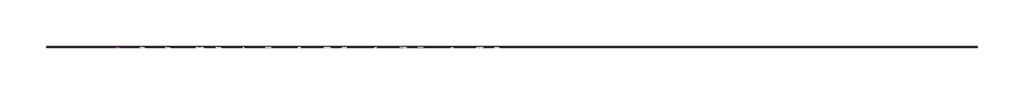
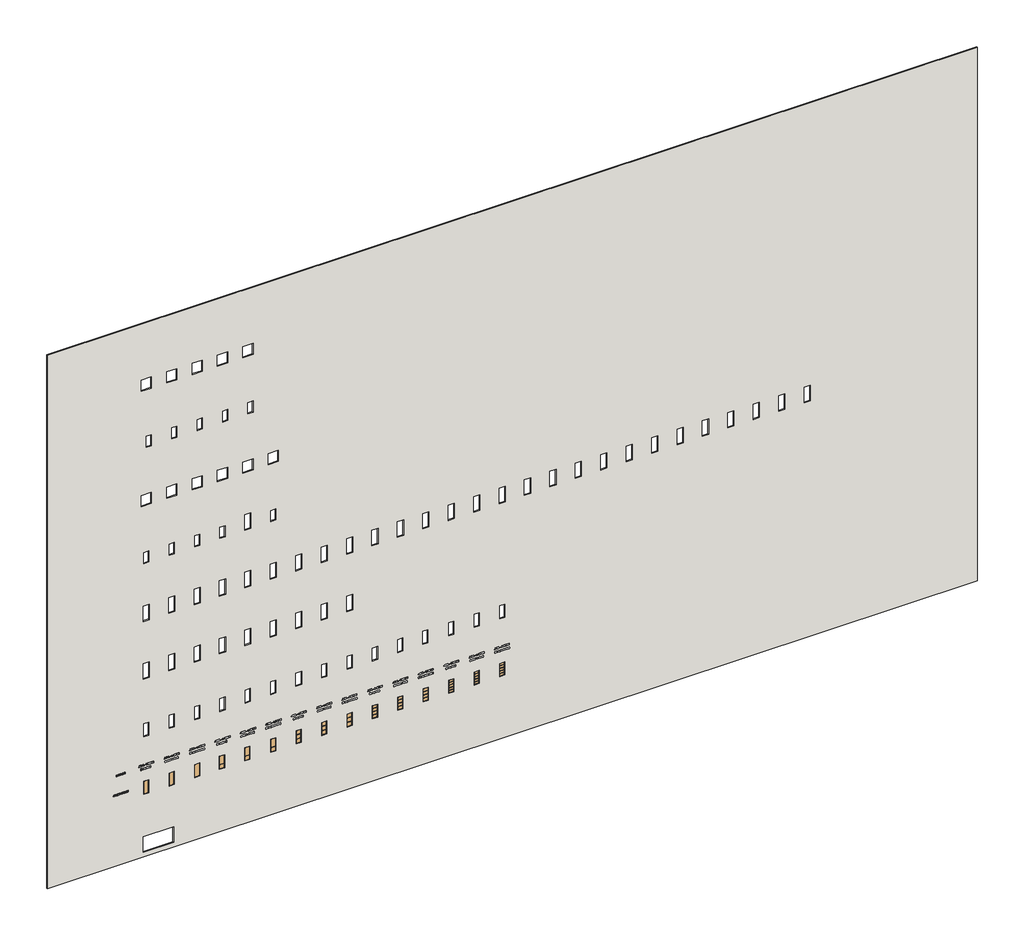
# One storey, part 1 of 11: 15 doors, 2 proxies, 1 wall.
"""IFC4 building model written with IfcOpenShell, lengths in millimetres."""

from ifc_helpers import new_model, si_unit, frame, origin, place, context, project, spatial, polyline, outline, extrude, transform, mapped, element, save
from components import door_0893ecdf, door_d1d23a0f, door_01771f59, door_7a753f8f, door_339503d6, door_c5224017, ac3l_a931b1db, ac3l_4260f32d, ac3l_e11f1b5f, ac4l_01f99b59, ac4l_2f4fa108, ac4l_27b2dc08, ac5l_27aba7ac, ac5l_d44fc449, ac5l_c1f94602

model = new_model("IFC4")

# Units and contexts
model_context = context("Model", 3, world=origin())
ifc_project = project(units=[si_unit("LENGTHUNIT", "METRE", prefix="MILLI")], contexts=[model_context])

# Site, building, storey
site = spatial("IfcSite", under=ifc_project)
building = spatial("IfcBuilding", under=site)
storey = spatial("IfcBuildingStorey", under=building, Name="01 - Marelli - Planta Baixa - Painéis Lambri", Elevation=0.0)

# Proxies
placement = place(None, origin())
element("IfcBuildingElementProxy", 1, Name="300mm Arial", ObjectType="300mm Arial", at=placement, inside=storey, context=model_context, shape_type="SweptSolid", body=[
    extrude(outline(polyline([(1600.0, -7636.3146377), (1600.0, -7596.5098058), (1694.1777908, -7562.076051), (1694.1777908, -7437.9526659), (1600.0, -7403.4453347), (1600.0, -7363.6405028), (1901.3689304, -7483.9379153), (1901.3689304, -7516.0172252), (1600.0, -7636.3146377)]), holes=[polyline([(1731.8489071, -7548.243688), (1812.415064, -7518.739552), (1863.6978141, -7499.9775703), (1805.9403409, -7478.8611437), (1731.8489071, -7451.7114525), (1731.8489071, -7548.243688)])]), frame((0.0, 8778.3159498, 0.0), z_axis=(0.0, 1.0, 0.0), x_axis=(0.0, 0.0, 1.0)), (0.0, 0.0, 1.0), 10.0),
    extrude(outline(polyline([(1600.0, -7323.3942126), (1600.0, -7285.7230963), (1731.8489071, -7285.7230963), (1731.8489071, -7240.2528817), (1730.5245319, -7218.4006911), (1723.350833, -7200.484838), (1703.816299, -7180.582422), (1662.4663628, -7152.2555084), (1600.0, -7113.0392877), (1600.0, -7069.2613303), (1681.6698029, -7119.5140108), (1720.4445652, -7150.0482164), (1736.5577966, -7171.4589486), (1746.5457928, -7134.3488523), (1754.5610217, -7119.9669655), (1764.5904046, -7108.3671864), (1789.2017101, -7093.0540983), (1818.8897871, -7087.9497357), (1842.7561316, -7091.0307474), (1864.4703663, -7100.2737825), (1881.9815493, -7114.6763626), (1893.2387384, -7133.2360093), (1899.3363824, -7158.629064), (1901.3689304, -7193.5318683), (1901.3689304, -7323.3942126), (1600.0, -7323.3942126)]), holes=[polyline([(1769.5200234, -7285.7230963), (1863.6978141, -7285.7230963), (1863.6978141, -7191.9131875), (1860.4420585, -7162.1055488), (1850.6747915, -7141.5501423), (1835.8675412, -7129.6031746), (1817.4918355, -7125.620852), (1804.1837044, -7127.7085823), (1791.9240369, -7133.9717732), (1781.7888879, -7144.254075), (1774.8543123, -7158.3991377), (1770.8535956, -7177.1887106), (1769.5200234, -7201.404543), (1769.5200234, -7285.7230963)])]), frame((0.0, 8778.3159498, 0.0), z_axis=(0.0, 1.0, 0.0), x_axis=(0.0, 0.0, 1.0)), (0.0, 0.0, 1.0), 10.0),
    extrude(outline(polyline([(1636.1260119, -6795.6307023), (1659.6520655, -6777.1814202), (1686.9673037, -6764.0664271), (1718.0349382, -6756.2305406), (1752.8181808, -6753.6185784), (1794.6463636, -6757.9227978), (1831.9863862, -6770.8354558), (1863.1827793, -6791.9610794), (1886.5800742, -6820.9041954), (1901.2033836, -6855.7702114), (1906.07782, -6894.6645354), (1901.3137481, -6933.2553567), (1887.0215326, -6967.9466288), (1863.6150407, -6996.93573), (1831.5081396, -7018.4200386), (1793.055274, -7031.7189727), (1750.6108888, -7036.1519507), (1708.2032918, -7031.7097756), (1670.3022493, -7018.3832504), (1638.6460036, -6996.8161684), (1614.9727972, -6967.6523232), (1600.2115321, -6932.8322924), (1595.2911105, -6894.2966534), (1599.5585416, -6855.9449554), (1612.360835, -6821.0881364), (1591.52032, -6790.1308665), (1577.1177399, -6759.063232), (1604.7088895, -6748.9096889), (1617.5295771, -6771.2953083), (1636.1260119, -6795.6307023)]), holes=[polyline([(1686.2315397, -6883.9223811), (1657.3895912, -6893.6344658), (1650.712533, -6873.2721974), (1640.6877487, -6853.9767867), (1634.8936072, -6873.6032912), (1632.9622268, -6894.5173826), (1634.8637168, -6916.2385151), (1640.568187, -6935.9316982), (1650.0756373, -6953.5969318), (1663.3860678, -6969.2342158), (1680.251158, -6982.0296115), (1700.4225876, -6991.1691798), (1723.9003567, -6996.6529208), (1750.6844652, -6998.4808344), (1778.1859436, -6996.6322274), (1802.0499888, -6991.0864063), (1822.2766007, -6981.8433712), (1838.8657795, -6968.903122), (1851.7899338, -6953.1577726), (1861.0214726, -6935.4994369), (1866.5603959, -6915.9281147), (1868.4067037, -6894.4438062), (1864.7554749, -6865.9605427), (1853.8017885, -6840.4019411), (1836.2354232, -6819.2027411), (1812.7461578, -6803.7976826), (1784.0605592, -6794.4166917), (1750.9051944, -6791.2896947), (1721.7321522, -6793.5015852), (1696.4586591, -6800.1372567), (1675.0847152, -6811.1967092), (1657.6103204, -6826.6799427), (1674.2569807, -6852.2477413), (1686.2315397, -6883.9223811)])]), frame((0.0, 8778.3159498, 0.0), z_axis=(0.0, 1.0, 0.0), x_axis=(0.0, 0.0, 1.0)), (0.0, 0.0, 1.0), 10.0),
    extrude(outline(polyline([(1901.3689304, -6499.3385434), (1728.8322747, -6499.3385434), (1681.6698029, -6504.1026152), (1664.9311721, -6510.057705), (1652.7542781, -6518.3948307), (1644.0952556, -6529.5278596), (1637.9102396, -6543.8706589), (1632.9622268, -6582.1855687), (1635.4638243, -6606.3554158), (1642.968617, -6626.4785609), (1655.0811317, -6641.9112106), (1671.4058953, -6652.0095714), (1694.9779341, -6657.5829836), (1728.8322747, -6659.4407877), (1901.3689304, -6659.4407877), (1901.3689304, -6697.111904), (1727.5078995, -6697.111904), (1684.7324205, -6694.2516215), (1652.0553023, -6685.6707739), (1627.6923172, -6670.4036711), (1609.8592375, -6647.4846228), (1598.9331422, -6616.904432), (1595.2911105, -6578.6539015), (1599.4757682, -6539.5480454), (1612.0297412, -6508.7563224), (1631.2515755, -6486.2235502), (1655.4398167, -6471.8945465), (1686.7925597, -6464.2242069), (1727.5078995, -6461.6674271), (1901.3689304, -6461.6674271), (1901.3689304, -6499.3385434)])), frame((0.0, 8778.3159498, 0.0), z_axis=(0.0, 1.0, 0.0), x_axis=(0.0, 0.0, 1.0)), (0.0, 0.0, 1.0), 10.0),
    extrude(outline(polyline([(-6353.3629677, 8778.3159498), (-6391.034084, 8778.3159498), (-6391.034084, 8788.3159498), (-6353.3629677, 8788.3159498), (-6353.3629677, 8778.3159498)])), frame((0.0, 0.0, 1600.0), z_axis=(0.0, 0.0, 1.0), x_axis=(1.0, 0.0, 0.0)), (0.0, 0.0, 1.0), 301.3689304),
    extrude(outline(polyline([(1600.0, -6188.9932922), (1600.0, -6150.0713771), (1901.3689304, -6035.2186183), (1901.3689304, -6075.5384849), (1684.2449769, -6156.0310655), (1635.3166715, -6172.0707205), (1684.2449769, -6188.3311046), (1901.3689304, -6268.602956), (1901.3689304, -6308.9228227), (1600.0, -6188.9932922)])), frame((0.0, 8778.3159498, 0.0), z_axis=(0.0, 1.0, 0.0), x_axis=(0.0, 0.0, 1.0)), (0.0, 0.0, 1.0), 10.0),
    extrude(outline(polyline([(1746.7113397, -6014.3229209), (1708.1665036, -6010.0187016), (1671.7002009, -5997.1060436), (1640.007167, -5975.8424642), (1615.7821376, -5946.485481), (1600.4138672, -5910.8377157), (1595.2911105, -5870.70179), (1599.9264236, -5832.892718), (1613.832363, -5797.7507904), (1636.7514113, -5767.7868019), (1668.4260511, -5745.5115471), (1706.8881137, -5731.6883811), (1750.1694304, -5727.0806591), (1792.8805301, -5731.4584548), (1830.8091638, -5744.5918421), (1862.4286213, -5766.0761506), (1886.2121922, -5795.5067102), (1901.1114131, -5830.9521404), (1906.07782, -5870.4810608), (1903.4336681, -5900.7715446), (1895.5012126, -5928.1465636), (1882.2804534, -5952.6061177), (1863.7713905, -5974.1502071), (1840.5902263, -5991.7257694), (1813.3531631, -6004.2797425), (1782.0602009, -6011.8121263), (1746.7113397, -6014.3229209)]), holes=[polyline([(1746.3434577, -5976.6518046), (1776.8799625, -5974.6882345), (1802.7121764, -5968.797524), (1823.8400992, -5958.9796733), (1840.263731, -5945.2346822), (1852.5762816, -5928.7673644), (1861.3709605, -5910.7825334), (1866.6477679, -5891.2801891), (1868.4067037, -5870.2603316), (1864.7554749, -5841.0964864), (1853.8017885, -5814.9676677), (1836.2078321, -5793.3086153), (1812.6357932, -5777.5540688), (1783.8122389, -5767.9523488), (1750.463736, -5764.7517754), (1723.9256486, -5766.6210758), (1700.5973316, -5772.228977), (1680.478785, -5781.5754789), (1663.5700088, -5794.6605816), (1650.1791041, -5810.642755), (1640.6141723, -5828.6804691), (1634.8752131, -5848.7737238), (1632.9622268, -5870.9225192), (1634.856819, -5892.6988341), (1640.5405959, -5912.557564), (1650.0135572, -5930.4987091), (1663.2757032, -5946.5222692), (1679.8349915, -5959.703941), (1699.19938, -5969.1194208), (1721.3688687, -5974.7687087), (1746.3434577, -5976.6518046)])]), frame((0.0, 8778.3159498, 0.0), z_axis=(0.0, 1.0, 0.0), x_axis=(0.0, 0.0, 1.0)), (0.0, 0.0, 1.0), 10.0),
    extrude(outline(polyline([(1600.0, -5557.5606357), (1600.0, -5443.4436408), (1605.1871361, -5395.1407348), (1611.6066769, -5377.10532), (1620.4910271, -5362.3624491), (1632.7598917, -5350.3235108), (1649.3329756, -5340.399894), (1668.8215242, -5333.7504269), (1689.8367832, -5331.5339379), (1715.055094, -5334.7804965), (1736.7049494, -5344.5201723), (1753.6643094, -5360.2931129), (1764.8111338, -5381.6394656), (1776.5557665, -5363.7695977), (1791.4825785, -5351.0684718), (1808.543106, -5343.4809057), (1826.6888854, -5340.951717), (1846.4073604, -5343.9591523), (1865.2429185, -5352.9814582), (1881.2549824, -5367.3104619), (1892.5029744, -5386.2379906), (1899.1524414, -5410.9320695), (1901.3689304, -5442.560724), (1901.3689304, -5557.5606357), (1600.0, -5557.5606357)]), holes=[polyline([(1778.9378025, -5519.8895194), (1863.6978141, -5519.8895194), (1863.6978141, -5456.3195106), (1859.7614768, -5407.9062401), (1854.1604734, -5395.4166463), (1845.230138, -5386.2012024), (1833.7890079, -5380.5174255), (1820.6556207, -5378.6228333), (1807.1267603, -5380.6553813), (1796.1178916, -5386.7530254), (1787.7577733, -5396.8605832), (1782.175164, -5410.9228724), (1778.9378025, -5451.0955863), (1778.9378025, -5519.8895194)]), polyline([(1637.6711163, -5519.8895194), (1741.2666861, -5519.8895194), (1741.2666861, -5446.3131204), (1740.0066903, -5419.4853259), (1736.2267028, -5399.776048), (1729.3381125, -5385.8609115), (1718.752308, -5376.4155413), (1705.2142506, -5371.007676), (1689.4689012, -5369.2050542), (1675.9124497, -5370.7409615), (1664.0850436, -5375.3486835), (1647.3464128, -5391.0204565), (1639.1426443, -5414.6752688), (1637.6711163, -5442.6343004), (1637.6711163, -5519.8895194)])]), frame((0.0, 8778.3159498, 0.0), z_axis=(0.0, 1.0, 0.0), x_axis=(0.0, 0.0, 1.0)), (0.0, 0.0, 1.0), 10.0),
    extrude(outline(polyline([(-5237.3561471, 8778.3159498), (-5275.0272634, 8778.3159498), (-5275.0272634, 8788.3159498), (-5237.3561471, 8788.3159498), (-5237.3561471, 8778.3159498)])), frame((0.0, 0.0, 1600.0), z_axis=(0.0, 0.0, 1.0), x_axis=(1.0, 0.0, 0.0)), (0.0, 0.0, 1.0), 37.6711163),
    extrude(outline(polyline([(-5119.6339087, 8778.3159498), (-5157.305025, 8778.3159498), (-5157.305025, 8788.3159498), (-5119.6339087, 8788.3159498), (-5119.6339087, 8778.3159498)])), frame((0.0, 0.0, 1600.0), z_axis=(0.0, 0.0, 1.0), x_axis=(1.0, 0.0, 0.0)), (0.0, 0.0, 1.0), 301.3689304),
    extrude(outline(polyline([(-5001.9116702, 8778.3159498), (-5039.5827865, 8778.3159498), (-5039.5827865, 8788.3159498), (-5001.9116702, 8788.3159498), (-5001.9116702, 8778.3159498)])), frame((0.0, 0.0, 1600.0), z_axis=(0.0, 0.0, 1.0), x_axis=(1.0, 0.0, 0.0)), (0.0, 0.0, 1.0), 37.6711163),
    extrude(outline(polyline([(1600.0, -4926.5694376), (1600.0, -4888.8983213), (1863.6978141, -4888.8983213), (1600.0, -4813.1882067), (1600.0, -4762.1261857), (1863.6978141, -4686.4160711), (1600.0, -4686.4160711), (1600.0, -4648.7449548), (1901.3689304, -4648.7449548), (1901.3689304, -4713.5657624), (1692.6326864, -4774.1927152), (1644.5872978, -4787.6571962), (1688.9538664, -4800.0916076), (1901.3689304, -4861.74863), (1901.3689304, -4926.5694376), (1600.0, -4926.5694376)])), frame((0.0, 8778.3159498, 0.0), z_axis=(0.0, 1.0, 0.0), x_axis=(0.0, 0.0, 1.0)), (0.0, 0.0, 1.0), 10.0),
])
element("IfcBuildingElementProxy", 2, Name="300mm Arial", ObjectType="300mm Arial", at=placement, inside=storey, context=model_context, shape_type="SweptSolid", body=[
    extrude(outline(polyline([(5600.0, -6993.7719449), (5600.0, -6956.1008286), (5863.6978141, -6956.1008286), (5600.0, -6880.390714), (5600.0, -6829.328693), (5863.6978141, -6753.6185784), (5600.0, -6753.6185784), (5600.0, -6715.9474621), (5901.3689304, -6715.9474621), (5901.3689304, -6780.7682697), (5692.6326864, -6841.3952225), (5644.5872978, -6854.8597035), (5688.9538664, -6867.2941149), (5901.3689304, -6928.9511373), (5901.3689304, -6993.7719449), (5600.0, -6993.7719449)])), frame((0.0, 8778.3159498, 0.0), z_axis=(0.0, 1.0, 0.0), x_axis=(0.0, 0.0, 1.0)), (0.0, 0.0, 1.0), 10.0),
    extrude(outline(polyline([(5746.7113397, -6664.1496772), (5708.1665036, -6659.8454579), (5671.7002009, -6646.9327998), (5640.007167, -6625.6692205), (5615.7821376, -6596.3122373), (5600.4138672, -6560.664472), (5595.2911105, -6520.5285463), (5599.9264236, -6482.7194742), (5613.832363, -6447.5775466), (5636.7514113, -6417.6135581), (5668.4260511, -6395.3383033), (5706.8881137, -6381.5151374), (5750.1694304, -6376.9074154), (5792.8805301, -6381.2852111), (5830.8091638, -6394.4185983), (5862.4286213, -6415.9029069), (5886.2121922, -6445.3334665), (5901.1114131, -6480.7788967), (5906.07782, -6520.3078171), (5903.4336681, -6550.5983009), (5895.5012126, -6577.9733198), (5882.2804534, -6602.432874), (5863.7713905, -6623.9769633), (5840.5902263, -6641.5525257), (5813.3531631, -6654.1064987), (5782.0602009, -6661.6388826), (5746.7113397, -6664.1496772)]), holes=[polyline([(5746.3434577, -6626.4785609), (5776.8799625, -6624.5149908), (5802.7121764, -6618.6242803), (5823.8400992, -6608.8064296), (5840.263731, -6595.0614385), (5852.5762816, -6578.5941207), (5861.3709605, -6560.6092897), (5866.6477679, -6541.1069454), (5868.4067037, -6520.0870879), (5864.7554749, -6490.9232427), (5853.8017885, -6464.794424), (5836.2078321, -6443.1353716), (5812.6357932, -6427.3808251), (5783.8122389, -6417.779105), (5750.463736, -6414.5785317), (5723.9256486, -6416.4478321), (5700.5973316, -6422.0557332), (5680.478785, -6431.4022352), (5663.5700088, -6444.4873379), (5650.1791041, -6460.4695113), (5640.6141723, -6478.5072254), (5634.8752131, -6498.6004801), (5632.9622268, -6520.7492755), (5634.856819, -6542.5255903), (5640.5405959, -6562.3843203), (5650.0135572, -6580.3254653), (5663.2757032, -6596.3490255), (5679.8349915, -6609.5306972), (5699.19938, -6618.9461771), (5721.3688687, -6624.5954649), (5746.3434577, -6626.4785609)])]), frame((0.0, 8778.3159498, 0.0), z_axis=(0.0, 1.0, 0.0), x_axis=(0.0, 0.0, 1.0)), (0.0, 0.0, 1.0), 10.0),
    extrude(outline(polyline([(5600.0, -6325.1096305), (5600.0, -6216.1429835), (5605.1503479, -6167.6929247), (5611.5055094, -6148.1491937), (5620.2702979, -6131.6772774), (5632.088507, -6117.3298796), (5647.6039302, -6104.1597042), (5667.2580258, -6092.7185741), (5691.4922522, -6083.5583124), (5719.9571216, -6077.5434418), (5752.303146, -6075.5384849), (5790.3789325, -6078.499935), (5823.9665587, -6087.3842852), (5852.5142015, -6102.2283237), (5875.470038, -6123.0688387), (5888.6586075, -6143.3391366), (5897.0279229, -6167.3618309), (5901.3689304, -6221.1461786), (5901.3689304, -6325.1096305), (5600.0, -6325.1096305)]), holes=[polyline([(5637.6711163, -6287.4385141), (5863.6978141, -6287.4385141), (5863.6978141, -6221.8083662), (5862.189498, -6190.06015), (5857.6645494, -6168.3919005), (5845.0829852, -6147.10073), (5824.2608643, -6129.2860444), (5793.9473879, -6117.228712), (5752.8917572, -6113.2096012), (5721.9068962, -6115.2605434), (5695.9068361, -6121.4133697), (5674.7996067, -6131.245016), (5658.4932372, -6144.332418), (5649.6824634, -6156.5093121), (5643.1157698, -6172.2914497), (5639.0322797, -6193.2055411), (5637.6711163, -6220.7782966), (5637.6711163, -6287.4385141)])]), frame((0.0, 8778.3159498, 0.0), z_axis=(0.0, 1.0, 0.0), x_axis=(0.0, 0.0, 1.0)), (0.0, 0.0, 1.0), 10.0),
    extrude(outline(polyline([(5600.0, -6023.7407), (5600.0, -5802.4228917), (5637.6711163, -5802.4228917), (5637.6711163, -5986.0695837), (5736.5577966, -5986.0695837), (5736.5577966, -5816.5495603), (5774.2289129, -5816.5495603), (5774.2289129, -5986.0695837), (5863.6978141, -5986.0695837), (5863.6978141, -5807.1317812), (5901.3689304, -5807.1317812), (5901.3689304, -6023.7407), (5600.0, -6023.7407)])), frame((0.0, 8778.3159498, 0.0), z_axis=(0.0, 1.0, 0.0), x_axis=(0.0, 0.0, 1.0)), (0.0, 0.0, 1.0), 10.0),
    extrude(outline(polyline([(5600.0, -5745.9162172), (5600.0, -5557.5606357), (5637.6711163, -5557.5606357), (5637.6711163, -5708.2451009), (5901.3689304, -5708.2451009), (5901.3689304, -5745.9162172), (5600.0, -5745.9162172)])), frame((0.0, 8778.3159498, 0.0), z_axis=(0.0, 1.0, 0.0), x_axis=(0.0, 0.0, 1.0)), (0.0, 0.0, 1.0), 10.0),
    extrude(outline(polyline([(5746.7113397, -5529.3072985), (5708.1665036, -5525.0030791), (5671.7002009, -5512.0904211), (5640.007167, -5490.8268418), (5615.7821376, -5461.4698586), (5600.4138672, -5425.8220932), (5595.2911105, -5385.6861676), (5599.9264236, -5347.8770955), (5613.832363, -5312.7351679), (5636.7514113, -5282.7711794), (5668.4260511, -5260.4959246), (5706.8881137, -5246.6727586), (5750.1694304, -5242.0650367), (5792.8805301, -5246.4428324), (5830.8091638, -5259.5762196), (5862.4286213, -5281.0605281), (5886.2121922, -5310.4910878), (5901.1114131, -5345.936518), (5906.07782, -5385.4654384), (5903.4336681, -5415.7559222), (5895.5012126, -5443.1309411), (5882.2804534, -5467.5904953), (5863.7713905, -5489.1345846), (5840.5902263, -5506.7101469), (5813.3531631, -5519.26412), (5782.0602009, -5526.7965039), (5746.7113397, -5529.3072985)]), holes=[polyline([(5746.3434577, -5491.6361822), (5776.8799625, -5489.672612), (5802.7121764, -5483.7819016), (5823.8400992, -5473.9640508), (5840.263731, -5460.2190598), (5852.5762816, -5443.751742), (5861.3709605, -5425.7669109), (5866.6477679, -5406.2645667), (5868.4067037, -5385.2447092), (5864.7554749, -5356.080864), (5853.8017885, -5329.9520453), (5836.2078321, -5308.2929928), (5812.6357932, -5292.5384464), (5783.8122389, -5282.9367263), (5750.463736, -5279.736153), (5723.9256486, -5281.6054533), (5700.5973316, -5287.2133545), (5680.478785, -5296.5598565), (5663.5700088, -5309.6449592), (5650.1791041, -5325.6271326), (5640.6141723, -5343.6648467), (5634.8752131, -5363.7581014), (5632.9622268, -5385.9068968), (5634.856819, -5407.6832116), (5640.5405959, -5427.5419416), (5650.0135572, -5445.4830866), (5663.2757032, -5461.5066468), (5679.8349915, -5474.6883185), (5699.19938, -5484.1037983), (5721.3688687, -5489.7530862), (5746.3434577, -5491.6361822)])]), frame((0.0, 8778.3159498, 0.0), z_axis=(0.0, 1.0, 0.0), x_axis=(0.0, 0.0, 1.0)), (0.0, 0.0, 1.0), 10.0),
])

# Doors
door_shape = door_0893ecdf(model_context)
element("IfcDoor", 3, ObjectType="Mobiliário_Mobiliário de Escritório_Painel Lambri - ACVL (Completo)_Marelli : ACVL", at=placement, inside=storey, context=model_context, shape_type="MappedRepresentation", body=[
    mapped(door_shape, transform((-1124.9818251, 8888.3159498, 0.0), x_axis=(-1.0, 0.0, 0.0), y_axis=(0.0, -1.0, 0.0), z_axis=(0.0, 0.0, 1.0))),
])
door_2_shape = door_d1d23a0f(model_context)
element("IfcDoor", 4, ObjectType="Mobiliário_Mobiliário de Escritório_Painel Lambri - ACVL (Inicial e Final)_Marelli : ACVL", at=placement, inside=storey, context=model_context, shape_type="MappedRepresentation", body=[
    mapped(door_2_shape, transform((3875.0181749, 8888.3159498, 0.0), x_axis=(-1.0, 0.0, 0.0), y_axis=(0.0, -1.0, 0.0), z_axis=(0.0, 0.0, 1.0))),
])
door_3_shape = door_01771f59(model_context)
element("IfcDoor", 5, ObjectType="Mobiliário_Mobiliário de Escritório_Painel Lambri - ACVL (Complementar)_Marelli : ACVL", at=placement, inside=storey, context=model_context, shape_type="MappedRepresentation", body=[
    mapped(door_3_shape, transform((8875.0181749, 8888.3159498, 0.0), x_axis=(-1.0, 0.0, 0.0), y_axis=(0.0, -1.0, 0.0), z_axis=(0.0, 0.0, 1.0))),
])
door_4_shape = door_7a753f8f(model_context)
element("IfcDoor", 6, ObjectType="Mobiliário_Mobiliário de Escritório_Painel Lambri - ACML (Completo)_Marelli : ACML", at=placement, inside=storey, context=model_context, shape_type="MappedRepresentation", body=[
    mapped(door_4_shape, transform((13775.0181749, 8888.3159498, 0.0), x_axis=(-1.0, 0.0, 0.0), y_axis=(0.0, -1.0, 0.0), z_axis=(0.0, 0.0, 1.0))),
])
door_5_shape = door_339503d6(model_context)
element("IfcDoor", 7, ObjectType="Mobiliário_Mobiliário de Escritório_Painel Lambri - ACML (Inicial e Final)_Marelli : ACML", at=placement, inside=storey, context=model_context, shape_type="MappedRepresentation", body=[
    mapped(door_5_shape, transform((18775.0181749, 8888.3159498, 0.0), x_axis=(-1.0, 0.0, 0.0), y_axis=(0.0, -1.0, 0.0), z_axis=(0.0, 0.0, 1.0))),
])
door_6_shape = door_c5224017(model_context)
element("IfcDoor", 8, ObjectType="Mobiliário_Mobiliário de Escritório_Painel Lambri - ACML (Complementar)_Marelli : ACML", at=placement, inside=storey, context=model_context, shape_type="MappedRepresentation", body=[
    mapped(door_6_shape, transform((23875.0181749, 8888.3159498, 0.0), x_axis=(-1.0, 0.0, 0.0), y_axis=(0.0, -1.0, 0.0), z_axis=(0.0, 0.0, 1.0))),
])
ac3l_shape = ac3l_a931b1db(model_context)
element("IfcDoor", 9, ObjectType="Mobiliário_Mobiliário de Escritório_Painel Lambri - AC3L (Completo)_Marelli : AC3L", at=placement, inside=storey, context=model_context, shape_type="MappedRepresentation", body=[
    mapped(ac3l_shape, transform((28875.0181749, 8888.3159498, 0.0), x_axis=(1.0, 0.0, 0.0), y_axis=(0.0, 1.0, 0.0), z_axis=(0.0, 0.0, 1.0))),
])
ac3l_2_shape = ac3l_4260f32d(model_context)
element("IfcDoor", 10, ObjectType="Mobiliário_Mobiliário de Escritório_Painel Lambri - AC3L (Inicial e Final)_Marelli : AC3L", at=placement, inside=storey, context=model_context, shape_type="MappedRepresentation", body=[
    mapped(ac3l_2_shape, transform((33875.0181749, 8888.3159498, 0.0), x_axis=(1.0, 0.0, 0.0), y_axis=(0.0, 1.0, 0.0), z_axis=(0.0, 0.0, 1.0))),
])
ac3l_3_shape = ac3l_e11f1b5f(model_context)
element("IfcDoor", 11, ObjectType="Mobiliário_Mobiliário de Escritório_Painel Lambri - AC3L (Complementar)_Marelli : AC3L", at=placement, inside=storey, context=model_context, shape_type="MappedRepresentation", body=[
    mapped(ac3l_3_shape, transform((38875.0181749, 8888.3159498, 0.0), x_axis=(1.0, 0.0, 0.0), y_axis=(0.0, 1.0, 0.0), z_axis=(0.0, 0.0, 1.0))),
])
ac4l_shape = ac4l_01f99b59(model_context)
element("IfcDoor", 12, ObjectType="Mobiliário_Mobiliário de Escritório_Painel Lambri - AC4L (Completo)_Marelli : AC4L", at=placement, inside=storey, context=model_context, shape_type="MappedRepresentation", body=[
    mapped(ac4l_shape, transform((43875.0181749, 8888.3159498, 0.0), x_axis=(1.0, 0.0, 0.0), y_axis=(0.0, 1.0, 0.0), z_axis=(0.0, 0.0, 1.0))),
])
ac4l_2_shape = ac4l_2f4fa108(model_context)
element("IfcDoor", 13, ObjectType="Mobiliário_Mobiliário de Escritório_Painel Lambri - AC4L (Inicial e Final)_Marelli : AC4L", at=placement, inside=storey, context=model_context, shape_type="MappedRepresentation", body=[
    mapped(ac4l_2_shape, transform((48875.0181749, 8888.3159498, 0.0), x_axis=(1.0, 0.0, 0.0), y_axis=(0.0, 1.0, 0.0), z_axis=(0.0, 0.0, 1.0))),
])
ac4l_3_shape = ac4l_27b2dc08(model_context)
element("IfcDoor", 14, ObjectType="Mobiliário_Mobiliário de Escritório_Painel Lambri - AC4L (Complementar)_Marelli : AC4L", at=placement, inside=storey, context=model_context, shape_type="MappedRepresentation", body=[
    mapped(ac4l_3_shape, transform((53875.0181749, 8888.3159498, 0.0), x_axis=(1.0, 0.0, 0.0), y_axis=(0.0, 1.0, 0.0), z_axis=(0.0, 0.0, 1.0))),
])
ac5l_shape = ac5l_27aba7ac(model_context)
element("IfcDoor", 15, ObjectType="Mobiliário_Mobiliário de Escritório_Painel Lambri - AC5L (Completo)_Marelli : AC5L", at=placement, inside=storey, context=model_context, shape_type="MappedRepresentation", body=[
    mapped(ac5l_shape, transform((58875.0181749, 8888.3159498, 0.0), x_axis=(1.0, 0.0, 0.0), y_axis=(0.0, 1.0, 0.0), z_axis=(0.0, 0.0, 1.0))),
])
ac5l_2_shape = ac5l_d44fc449(model_context)
element("IfcDoor", 16, ObjectType="Mobiliário_Mobiliário de Escritório_Painel Lambri - AC5L (Inicial e Final)_Marelli : AC5L", at=placement, inside=storey, context=model_context, shape_type="MappedRepresentation", body=[
    mapped(ac5l_2_shape, transform((63875.0181749, 8888.3159498, 0.0), x_axis=(1.0, 0.0, 0.0), y_axis=(0.0, 1.0, 0.0), z_axis=(0.0, 0.0, 1.0))),
])
ac5l_3_shape = ac5l_c1f94602(model_context)
element("IfcDoor", 17, ObjectType="Mobiliário_Mobiliário de Escritório_Painel Lambri - AC5L (Complementar)_Marelli : AC5L", at=placement, inside=storey, context=model_context, shape_type="MappedRepresentation", body=[
    mapped(ac5l_3_shape, transform((68875.0181749, 8888.3159498, 0.0), x_axis=(1.0, 0.0, 0.0), y_axis=(0.0, 1.0, 0.0), z_axis=(0.0, 0.0, 1.0))),
])

# Wall
element("IfcWall", 18, ObjectType="Genérico - 200 mm", at=placement, inside=storey, context=model_context, shape_type="SweptSolid", body=[
    extrude(outline(polyline([(-13000.0, -20624.9818251), (-13000.0, 162375.0181749), (98000.0, 162375.0181749), (98000.0, -20624.9818251), (-13000.0, -20624.9818251)]), holes=[polyline([(0.0, -1624.9818251), (2700.0, -1624.9818251), (2700.0, -624.9818251), (0.0, -624.9818251), (0.0, -1624.9818251)]), polyline([(0.0, 18275.0181749), (2700.0, 18275.0181749), (2700.0, 19275.0181749), (0.0, 19275.0181749), (0.0, 18275.0181749)]), polyline([(0.0, 3375.0181749), (2700.0, 3375.0181749), (2700.0, 4375.0181749), (0.0, 4375.0181749), (0.0, 3375.0181749)]), polyline([(0.0, 8375.0181749), (2700.0, 8375.0181749), (2700.0, 9375.0181749), (0.0, 9375.0181749), (0.0, 8375.0181749)]), polyline([(0.0, 13275.0181749), (2700.0, 13275.0181749), (2700.0, 14275.0181749), (0.0, 14275.0181749), (0.0, 13275.0181749)]), polyline([(0.0, 23375.0181749), (2700.0, 23375.0181749), (2700.0, 24375.0181749), (0.0, 24375.0181749), (0.0, 23375.0181749)]), polyline([(2700.0, 29375.0181749), (0.0, 29375.0181749), (0.0, 28375.0181749), (2700.0, 28375.0181749), (2700.0, 29375.0181749)]), polyline([(2700.0, 34375.0181749), (0.0, 34375.0181749), (0.0, 33375.0181749), (2700.0, 33375.0181749), (2700.0, 34375.0181749)]), polyline([(2700.0, 54375.0181749), (0.0, 54375.0181749), (0.0, 53375.0181749), (2700.0, 53375.0181749), (2700.0, 54375.0181749)]), polyline([(2700.0, 39375.0181749), (0.0, 39375.0181749), (0.0, 38375.0181749), (2700.0, 38375.0181749), (2700.0, 39375.0181749)]), polyline([(2700.0, 44375.0181749), (0.0, 44375.0181749), (0.0, 43375.0181749), (2700.0, 43375.0181749), (2700.0, 44375.0181749)]), polyline([(2700.0, 49375.0181749), (0.0, 49375.0181749), (0.0, 48375.0181749), (2700.0, 48375.0181749), (2700.0, 49375.0181749)]), polyline([(2700.0, 59375.0181749), (0.0, 59375.0181749), (0.0, 58375.0181749), (2700.0, 58375.0181749), (2700.0, 59375.0181749)]), polyline([(2700.0, 64375.0181749), (0.0, 64375.0181749), (0.0, 63375.0181749), (2700.0, 63375.0181749), (2700.0, 64375.0181749)]), polyline([(2700.0, 69375.0181749), (0.0, 69375.0181749), (0.0, 68375.0181749), (2700.0, 68375.0181749), (2700.0, 69375.0181749)]), polyline([(12000.0, -1624.9818251), (14700.0, -1624.9818251), (14700.0, -624.9818251), (12000.0, -624.9818251), (12000.0, -1624.9818251)]), polyline([(12000.0, 3375.0181749), (14700.0, 3375.0181749), (14700.0, 4375.0181749), (12000.0, 4375.0181749), (12000.0, 3375.0181749)]), polyline([(12000.0, 8375.0181749), (14700.0, 8375.0181749), (14700.0, 9375.0181749), (12000.0, 9375.0181749), (12000.0, 8375.0181749)]), polyline([(14700.0, 19375.0181749), (12000.0, 19375.0181749), (12000.0, 18375.0181749), (14700.0, 18375.0181749), (14700.0, 19375.0181749)]), polyline([(12000.0, 13375.0181749), (14700.0, 13375.0181749), (14700.0, 14375.0181749), (12000.0, 14375.0181749), (12000.0, 13375.0181749)]), polyline([(14700.0, 24375.0181749), (12000.0, 24375.0181749), (12000.0, 23375.0181749), (14700.0, 23375.0181749), (14700.0, 24375.0181749)]), polyline([(14700.0, 29475.0181749), (12000.0, 29475.0181749), (12000.0, 28275.0181749), (14700.0, 28275.0181749), (14700.0, 29475.0181749)]), polyline([(14700.0, 34375.0181749), (12000.0, 34375.0181749), (12000.0, 33375.0181749), (14700.0, 33375.0181749), (14700.0, 34375.0181749)]), polyline([(14700.0, 39375.0181749), (12000.0, 39375.0181749), (12000.0, 38375.0181749), (14700.0, 38375.0181749), (14700.0, 39375.0181749)]), polyline([(14700.0, 44375.0181749), (12000.0, 44375.0181749), (12000.0, 43375.0181749), (14700.0, 43375.0181749), (14700.0, 44375.0181749)]), polyline([(14700.0, 49375.0181749), (12000.0, 49375.0181749), (12000.0, 48375.0181749), (14700.0, 48375.0181749), (14700.0, 49375.0181749)]), polyline([(14700.0, 54275.0181749), (12000.0, 54275.0181749), (12000.0, 53275.0181749), (14700.0, 53275.0181749), (14700.0, 54275.0181749)]), polyline([(14700.0, 59375.0181749), (12000.0, 59375.0181749), (12000.0, 58375.0181749), (14700.0, 58375.0181749), (14700.0, 59375.0181749)]), polyline([(14700.0, 64375.0181749), (12000.0, 64375.0181749), (12000.0, 63375.0181749), (14700.0, 63375.0181749), (14700.0, 64375.0181749)]), polyline([(14700.0, 69375.0181749), (12000.0, 69375.0181749), (12000.0, 68375.0181749), (14700.0, 68375.0181749), (14700.0, 69375.0181749)]), polyline([(24000.0, -1724.9818251), (27200.0, -1724.9818251), (27200.0, -524.9818251), (24000.0, -524.9818251), (24000.0, -1724.9818251)]), polyline([(24000.0, 3275.0181749), (27200.0, 3275.0181749), (27200.0, 4475.0181749), (24000.0, 4475.0181749), (24000.0, 3275.0181749)]), polyline([(24000.0, 8275.0181749), (27200.0, 8275.0181749), (27200.0, 9475.0181749), (24000.0, 9475.0181749), (24000.0, 8275.0181749)]), polyline([(24000.0, 13275.0181749), (27200.0, 13275.0181749), (27200.0, 14475.0181749), (24000.0, 14475.0181749), (24000.0, 13275.0181749)]), polyline([(24000.0, 18275.0181749), (27200.0, 18275.0181749), (27200.0, 19475.0181749), (24000.0, 19475.0181749), (24000.0, 18275.0181749)]), polyline([(24000.0, 23275.0181749), (27200.0, 23275.0181749), (27200.0, 24475.0181749), (24000.0, 24475.0181749), (24000.0, 23275.0181749)]), polyline([(24000.0, 28275.0181749), (27200.0, 28275.0181749), (27200.0, 29475.0181749), (24000.0, 29475.0181749), (24000.0, 28275.0181749)]), polyline([(36000.0, -1724.9818251), (39200.0, -1724.9818251), (39200.0, -524.9818251), (36000.0, -524.9818251), (36000.0, -1724.9818251)]), polyline([(36000.0, 8275.0181749), (39200.0, 8275.0181749), (39200.0, 9475.0181749), (36000.0, 9475.0181749), (36000.0, 8275.0181749)]), polyline([(36000.0, 3275.0181749), (39200.0, 3275.0181749), (39200.0, 4475.0181749), (36000.0, 4475.0181749), (36000.0, 3275.0181749)]), polyline([(39200.0, 14475.0181749), (36000.0, 14475.0181749), (36000.0, 13275.0181749), (39200.0, 13275.0181749), (39200.0, 14475.0181749)]), polyline([(39200.0, 19475.0181749), (36000.0, 19475.0181749), (36000.0, 18275.0181749), (39200.0, 18275.0181749), (39200.0, 19475.0181749)]), polyline([(39200.0, 24475.0181749), (36000.0, 24475.0181749), (36000.0, 23275.0181749), (39200.0, 23275.0181749), (39200.0, 24475.0181749)]), polyline([(36000.0, 28275.0181749), (39200.0, 28275.0181749), (39200.0, 29475.0181749), (36000.0, 29475.0181749), (36000.0, 28275.0181749)]), polyline([(36000.0, 33275.0181749), (39200.0, 33275.0181749), (39200.0, 34475.0181749), (36000.0, 34475.0181749), (36000.0, 33275.0181749)]), polyline([(36000.0, 38275.0181749), (39200.0, 38275.0181749), (39200.0, 39475.0181749), (36000.0, 39475.0181749), (36000.0, 38275.0181749)]), polyline([(36000.0, 43275.0181749), (39200.0, 43275.0181749), (39200.0, 44475.0181749), (36000.0, 44475.0181749), (36000.0, 43275.0181749)]), polyline([(36000.0, 48275.0181749), (39200.0, 48275.0181749), (39200.0, 49475.0181749), (36000.0, 49475.0181749), (36000.0, 48275.0181749)]), polyline([(36000.0, 53275.0181749), (39200.0, 53275.0181749), (39200.0, 54475.0181749), (36000.0, 54475.0181749), (36000.0, 53275.0181749)]), polyline([(36000.0, 58275.0181749), (39200.0, 58275.0181749), (39200.0, 59475.0181749), (36000.0, 59475.0181749), (36000.0, 58275.0181749)]), polyline([(39200.0, 74475.0181749), (36000.0, 74475.0181749), (36000.0, 73275.0181749), (39200.0, 73275.0181749), (39200.0, 74475.0181749)]), polyline([(39200.0, 79475.0181749), (36000.0, 79475.0181749), (36000.0, 78275.0181749), (39200.0, 78275.0181749), (39200.0, 79475.0181749)]), polyline([(39200.0, 84475.0181749), (36000.0, 84475.0181749), (36000.0, 83275.0181749), (39200.0, 83275.0181749), (39200.0, 84475.0181749)]), polyline([(36000.0, 88275.0181749), (39200.0, 88275.0181749), (39200.0, 89475.0181749), (36000.0, 89475.0181749), (36000.0, 88275.0181749)]), polyline([(36000.0, 93275.0181749), (39200.0, 93275.0181749), (39200.0, 94475.0181749), (36000.0, 94475.0181749), (36000.0, 93275.0181749)]), polyline([(36000.0, 98275.0181749), (39200.0, 98275.0181749), (39200.0, 99475.0181749), (36000.0, 99475.0181749), (36000.0, 98275.0181749)]), polyline([(36000.0, 103275.0181749), (39200.0, 103275.0181749), (39200.0, 104475.0181749), (36000.0, 104475.0181749), (36000.0, 103275.0181749)]), polyline([(36000.0, 108275.0181749), (39200.0, 108275.0181749), (39200.0, 109475.0181749), (36000.0, 109475.0181749), (36000.0, 108275.0181749)]), polyline([(36000.0, 113275.0181749), (39200.0, 113275.0181749), (39200.0, 114475.0181749), (36000.0, 114475.0181749), (36000.0, 113275.0181749)]), polyline([(36000.0, 118275.0181749), (39200.0, 118275.0181749), (39200.0, 119475.0181749), (36000.0, 119475.0181749), (36000.0, 118275.0181749)]), polyline([(36000.0, 128275.0181749), (39200.0, 128275.0181749), (39200.0, 129475.0181749), (36000.0, 129475.0181749), (36000.0, 128275.0181749)]), polyline([(36000.0, 63275.0181749), (39200.0, 63275.0181749), (39200.0, 64475.0181749), (36000.0, 64475.0181749), (36000.0, 63275.0181749)]), polyline([(36000.0, 123275.0181749), (39200.0, 123275.0181749), (39200.0, 124475.0181749), (36000.0, 124475.0181749), (36000.0, 123275.0181749)]), polyline([(36000.0, 68275.0181749), (39200.0, 68275.0181749), (39200.0, 69475.0181749), (36000.0, 69475.0181749), (36000.0, 68275.0181749)]), polyline([(50300.0, -624.9818251), (48000.0, -624.9818251), (48000.0, -1624.9818251), (50300.0, -1624.9818251), (50300.0, -624.9818251)]), polyline([(50300.0, 4375.0181749), (48000.0, 4375.0181749), (48000.0, 3375.0181749), (50300.0, 3375.0181749), (50300.0, 4375.0181749)]), polyline([(50300.0, 9375.0181749), (48000.0, 9375.0181749), (48000.0, 8375.0181749), (50300.0, 8375.0181749), (50300.0, 9375.0181749)]), polyline([(50300.0, 14375.0181749), (48000.0, 14375.0181749), (48000.0, 13375.0181749), (50300.0, 13375.0181749), (50300.0, 14375.0181749)]), polyline([(51200.0, 19475.0181749), (48000.0, 19475.0181749), (48000.0, 18275.0181749), (51200.0, 18275.0181749), (51200.0, 19475.0181749)]), polyline([(50300.0, 24375.0181749), (48000.0, 24375.0181749), (48000.0, 23375.0181749), (50300.0, 23375.0181749), (50300.0, 24375.0181749)]), polyline([(60000.0, 2875.0181749), (62300.0, 2875.0181749), (62300.0, 4875.0181749), (60000.0, 4875.0181749), (60000.0, 2875.0181749)]), polyline([(60000.0, 7875.0181749), (62300.0, 7875.0181749), (62300.0, 9875.0181749), (60000.0, 9875.0181749), (60000.0, 7875.0181749)]), polyline([(62300.0, 19875.0181749), (60000.0, 19875.0181749), (60000.0, 17875.0181749), (62300.0, 17875.0181749), (62300.0, 19875.0181749)]), polyline([(62300.0, 24885.0219741), (60000.0, 24885.0219741), (60000.0, 22885.0219741), (62300.0, 22885.0219741), (62300.0, 24885.0219741)]), polyline([(62300.0, 14875.0181749), (60000.0, 14875.0181749), (60000.0, 12875.0181749), (62300.0, 12875.0181749), (62300.0, 14875.0181749)]), polyline([(24000.0, 33275.0181749), (27200.0, 33275.0181749), (27200.0, 34475.0181749), (24000.0, 34475.0181749), (24000.0, 33275.0181749)]), polyline([(24000.0, 38275.0181749), (27200.0, 38275.0181749), (27200.0, 39475.0181749), (24000.0, 39475.0181749), (24000.0, 38275.0181749)]), polyline([(74300.0, -124.9818251), (72000.0, -124.9818251), (72000.0, -1124.9818251), (74300.0, -1124.9818251), (74300.0, -124.9818251)]), polyline([(74300.0, 4875.0181749), (72000.0, 4875.0181749), (72000.0, 3875.0181749), (74300.0, 3875.0181749), (74300.0, 4875.0181749)]), polyline([(74300.0, 9875.0181749), (72000.0, 9875.0181749), (72000.0, 8875.0181749), (74300.0, 8875.0181749), (74300.0, 9875.0181749)]), polyline([(74300.0, 14875.0181749), (72000.0, 14875.0181749), (72000.0, 13875.0181749), (74300.0, 13875.0181749), (74300.0, 14875.0181749)]), polyline([(74300.0, 19875.0181749), (72000.0, 19875.0181749), (72000.0, 18875.0181749), (74300.0, 18875.0181749), (74300.0, 19875.0181749)]), polyline([(86300.0, -124.9818251), (84000.0, -124.9818251), (84000.0, -2124.9818251), (86300.0, -2124.9818251), (86300.0, -124.9818251)]), polyline([(86300.0, 4875.0181749), (84000.0, 4875.0181749), (84000.0, 2875.0181749), (86300.0, 2875.0181749), (86300.0, 4875.0181749)]), polyline([(86300.0, 9875.0181749), (84000.0, 9875.0181749), (84000.0, 7875.0181749), (86300.0, 7875.0181749), (86300.0, 9875.0181749)]), polyline([(86300.0, 19875.0181749), (84000.0, 19875.0181749), (84000.0, 17875.0181749), (86300.0, 17875.0181749), (86300.0, 19875.0181749)]), polyline([(86300.0, 14875.0181749), (84000.0, 14875.0181749), (84000.0, 12875.0181749), (86300.0, 12875.0181749), (86300.0, 14875.0181749)]), polyline([(60000.0, -2124.9818251), (62300.0, -2124.9818251), (62300.0, -124.9818251), (60000.0, -124.9818251), (60000.0, -2124.9818251)]), polyline([(-12000.0, -1724.9818251), (-8800.0, -1724.9818251), (-8800.0, 4235.0181749), (-12000.0, 4235.0181749), (-12000.0, -1724.9818251)])]), frame((0.0, 8788.3159498, 0.0), z_axis=(0.0, 1.0, 0.0), x_axis=(0.0, 0.0, 1.0)), (0.0, 0.0, 1.0), 200.0),
])

save(model, "model.ifc")
